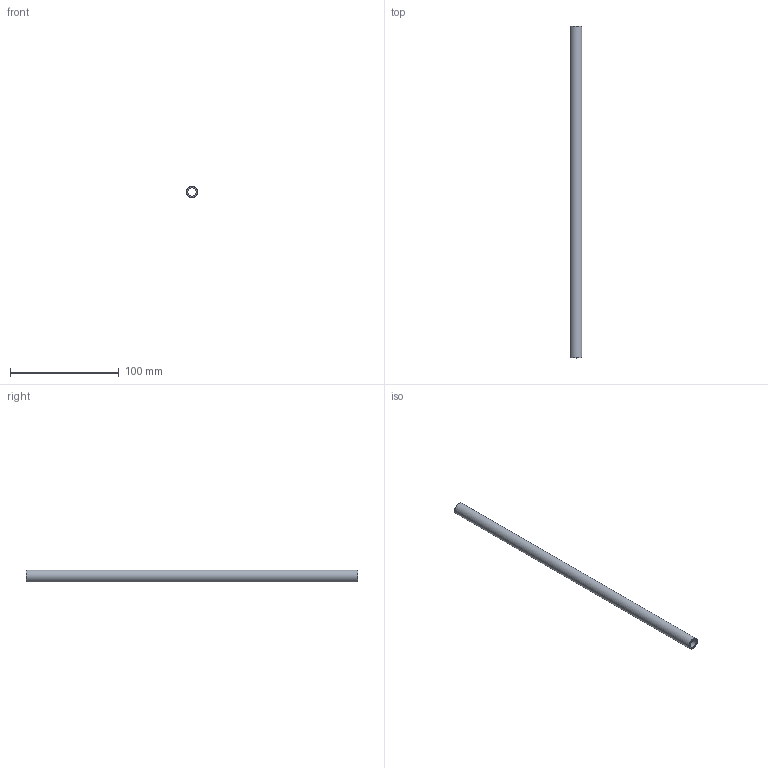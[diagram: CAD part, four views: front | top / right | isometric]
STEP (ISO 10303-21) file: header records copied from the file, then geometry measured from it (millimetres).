
FILE_DESCRIPTION(/* description */ (''),/* implementation_level */ '2;1');
FILE_NAME(/* name */ 'C:/Users/drich/Desktop/437T-12 v1.step',/* time_stamp */ '2019-12-27T17:32:43-06:00',/* author */ (''),/* organization */ (''),/* preprocessor_version */ 'ST-DEVELOPER v18',/* originating_system */ 'Autodesk Translation Framework v8.12.0.6',/* authorisation */ '');
FILE_SCHEMA (('AUTOMOTIVE_DESIGN { 1 0 10303 214 3 1 1 }'));
Length unit declared in the file: inch
Products named in the file (1): 437T-12
Bounding box: 10.98 x 304.8 x 10.98 mm (x, y, z)
Volume: 14291.5 mm3; surface area: 18062.6 mm2
Topology: 1 solids, 1 shells, 6 faces, 14 edges, 10 vertices
Faces by surface type: cone 2, cylinder 2, plane 2
Full cylindrical faces by diameter (mm): 7.798 x1, 10.978 x1
Entity records: 230 total; most frequent: DIRECTION 38, CARTESIAN_POINT 31, ORIENTED_EDGE 28, AXIS2_PLACEMENT_3D 17, EDGE_CURVE 14, CIRCLE 10, VERTEX_POINT 10, EDGE_LOOP 8
